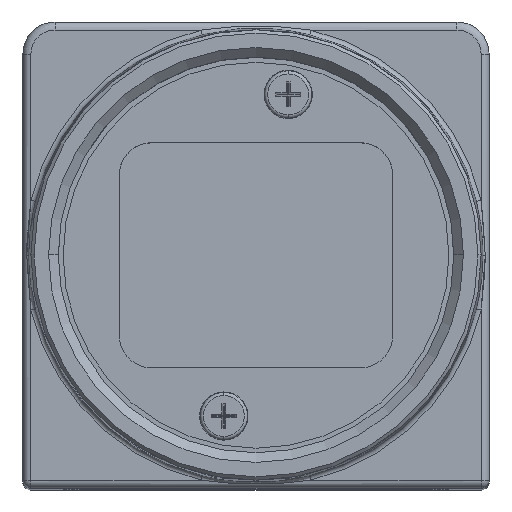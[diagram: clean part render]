
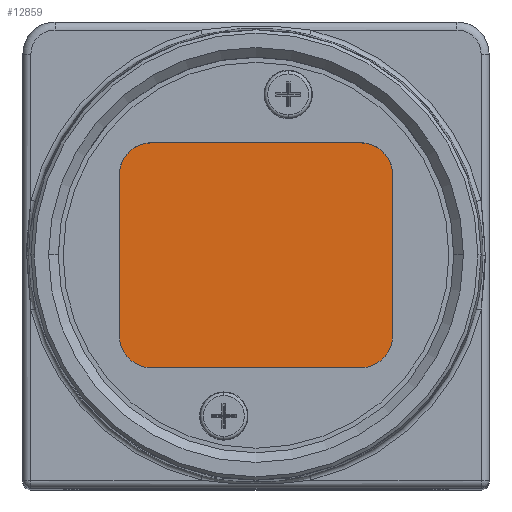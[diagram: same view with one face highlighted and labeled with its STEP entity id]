
A CAD part, top view. The second image highlights one B-rep face of the part: STEP entity #12859.
In plain terms, the highlighted planar face has unit normal (0, 0, 1).
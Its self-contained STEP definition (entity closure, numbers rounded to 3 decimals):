
#2229=CARTESIAN_POINT('',(-6.5,5.,-15.99));
#2230=DIRECTION('',(0.,0.,1.));
#2231=DIRECTION('',(0.,1.,0.));
#2232=AXIS2_PLACEMENT_3D('',#2229,#2230,#2231);
#2234=DIRECTION('',(-1.,0.,0.));
#2235=VECTOR('',#2234,13.);
#2236=CARTESIAN_POINT('',(6.5,7.,-15.99));
#2237=LINE('',#2236,#2235);
#2238=CARTESIAN_POINT('',(6.5,5.,-15.99));
#2239=DIRECTION('',(0.,0.,1.));
#2240=DIRECTION('',(1.,0.,0.));
#2241=AXIS2_PLACEMENT_3D('',#2238,#2239,#2240);
#2243=DIRECTION('',(0.,1.,0.));
#2244=VECTOR('',#2243,10.);
#2245=CARTESIAN_POINT('',(8.5,-5.,-15.99));
#2246=LINE('',#2245,#2244);
#2247=CARTESIAN_POINT('',(6.5,-5.,-15.99));
#2248=DIRECTION('',(0.,0.,1.));
#2249=DIRECTION('',(0.,-1.,0.));
#2250=AXIS2_PLACEMENT_3D('',#2247,#2248,#2249);
#2252=DIRECTION('',(1.,0.,0.));
#2253=VECTOR('',#2252,13.);
#2254=CARTESIAN_POINT('',(-6.5,-7.,-15.99));
#2255=LINE('',#2254,#2253);
#2256=CARTESIAN_POINT('',(-6.5,-5.,-15.99));
#2257=DIRECTION('',(0.,0.,1.));
#2258=DIRECTION('',(-1.,0.,0.));
#2259=AXIS2_PLACEMENT_3D('',#2256,#2257,#2258);
#2261=DIRECTION('',(0.,-1.,0.));
#2262=VECTOR('',#2261,10.);
#2263=CARTESIAN_POINT('',(-8.5,5.,-15.99));
#2264=LINE('',#2263,#2262);
#7844=CARTESIAN_POINT('',(6.5,7.,-15.99));
#7845=VERTEX_POINT('',#7844);
#7846=CARTESIAN_POINT('',(-6.5,7.,-15.99));
#7847=VERTEX_POINT('',#7846);
#7848=CARTESIAN_POINT('',(8.5,-5.,-15.99));
#7849=VERTEX_POINT('',#7848);
#7850=CARTESIAN_POINT('',(8.5,5.,-15.99));
#7851=VERTEX_POINT('',#7850);
#7852=CARTESIAN_POINT('',(-6.5,-7.,-15.99));
#7853=VERTEX_POINT('',#7852);
#7854=CARTESIAN_POINT('',(6.5,-7.,-15.99));
#7855=VERTEX_POINT('',#7854);
#7856=CARTESIAN_POINT('',(-8.5,5.,-15.99));
#7857=VERTEX_POINT('',#7856);
#7858=CARTESIAN_POINT('',(-8.5,-5.,-15.99));
#7859=VERTEX_POINT('',#7858);
#12844=CARTESIAN_POINT('',(0.,0.,-15.99));
#12845=DIRECTION('',(0.,0.,1.));
#12846=DIRECTION('',(1.,0.,0.));
#12847=AXIS2_PLACEMENT_3D('',#12844,#12845,#12846);
#12848=PLANE('',#12847);
#12849=ORIENTED_EDGE('',*,*,#12789,.F.);
#12850=ORIENTED_EDGE('',*,*,#12810,.F.);
#12851=ORIENTED_EDGE('',*,*,#12830,.F.);
#12852=ORIENTED_EDGE('',*,*,#12683,.F.);
#12853=ORIENTED_EDGE('',*,*,#12705,.F.);
#12854=ORIENTED_EDGE('',*,*,#12726,.F.);
#12855=ORIENTED_EDGE('',*,*,#12747,.F.);
#12856=ORIENTED_EDGE('',*,*,#12768,.F.);
#12857=EDGE_LOOP('',(#12849,#12850,#12851,#12852,#12853,#12854,#12855,#12856));
#12858=FACE_OUTER_BOUND('',#12857,.F.);
#2233=CIRCLE('',#2232,2.);
#2242=CIRCLE('',#2241,2.);
#2251=CIRCLE('',#2250,2.);
#2260=CIRCLE('',#2259,2.);
#12683=EDGE_CURVE('',#7849,#7851,#2246,.T.);
#12705=EDGE_CURVE('',#7855,#7849,#2251,.T.);
#12726=EDGE_CURVE('',#7853,#7855,#2255,.T.);
#12747=EDGE_CURVE('',#7859,#7853,#2260,.T.);
#12768=EDGE_CURVE('',#7857,#7859,#2264,.T.);
#12789=EDGE_CURVE('',#7847,#7857,#2233,.T.);
#12810=EDGE_CURVE('',#7845,#7847,#2237,.T.);
#12830=EDGE_CURVE('',#7851,#7845,#2242,.T.);
#12859=ADVANCED_FACE('',(#12858),#12848,.T.);
